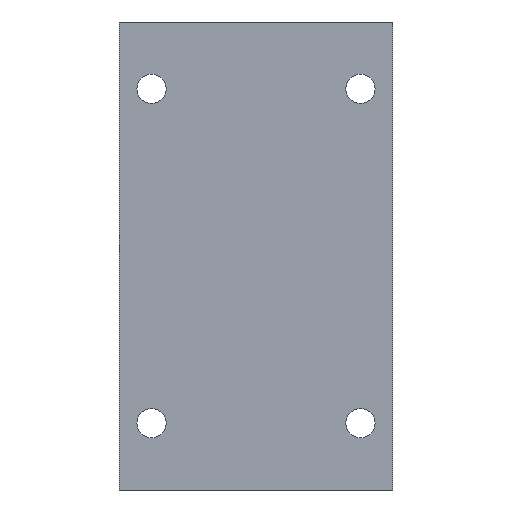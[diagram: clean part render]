
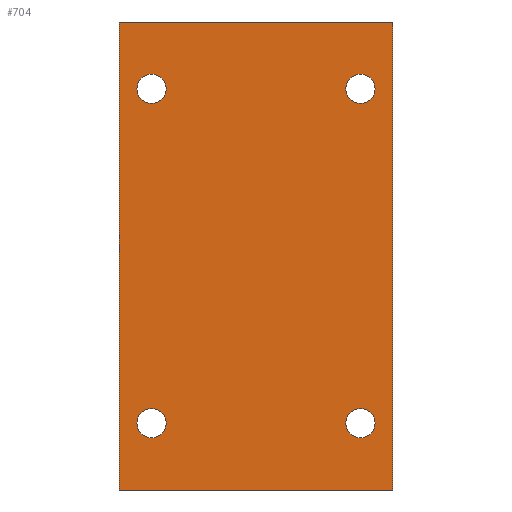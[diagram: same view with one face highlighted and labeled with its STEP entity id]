
A CAD part, front view. The second image highlights one B-rep face of the part: STEP entity #704.
In plain terms, the highlighted planar face has unit normal (0, -1, 0).
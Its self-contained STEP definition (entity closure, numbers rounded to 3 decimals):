
#11 = VECTOR ( 'NONE', #2075, 1000. ) ;
#30 = EDGE_LOOP ( 'NONE', ( #251, #2194 ) ) ;
#34 = ORIENTED_EDGE ( 'NONE', *, *, #2147, .F. ) ;
#42 = AXIS2_PLACEMENT_3D ( 'NONE', #1775, #2321, #1790 ) ;
#46 = ORIENTED_EDGE ( 'NONE', *, *, #681, .F. ) ;
#61 = EDGE_CURVE ( 'NONE', #1072, #1907, #396, .T. ) ;
#72 = DIRECTION ( 'NONE',  ( 0., 0., -1. ) ) ;
#75 = CARTESIAN_POINT ( 'NONE',  ( -50., -44., -80. ) ) ;
#102 = DIRECTION ( 'NONE',  ( 0., -1., 0. ) ) ;
#106 = EDGE_CURVE ( 'NONE', #1896, #1219, #1667, .T. ) ;
#107 = FACE_BOUND ( 'NONE', #350, .T. ) ;
#133 = ORIENTED_EDGE ( 'NONE', *, *, #950, .F. ) ;
#204 = AXIS2_PLACEMENT_3D ( 'NONE', #1106, #102, #632 ) ;
#207 = DIRECTION ( 'NONE',  ( 0., 0., -1. ) ) ;
#208 = EDGE_CURVE ( 'NONE', #1907, #955, #668, .T. ) ;
#210 = CARTESIAN_POINT ( 'NONE',  ( -50., -44., -87. ) ) ;
#236 = AXIS2_PLACEMENT_3D ( 'NONE', #1868, #2206, #1703 ) ;
#251 = ORIENTED_EDGE ( 'NONE', *, *, #1761, .F. ) ;
#290 = FACE_BOUND ( 'NONE', #940, .T. ) ;
#295 = VERTEX_POINT ( 'NONE', #917 ) ;
#298 = DIRECTION ( 'NONE',  ( 0., 0., -1. ) ) ;
#319 = LINE ( 'NONE', #650, #941 ) ;
#331 = AXIS2_PLACEMENT_3D ( 'NONE', #1034, #2162, #207 ) ;
#350 = EDGE_LOOP ( 'NONE', ( #814, #2320 ) ) ;
#396 = LINE ( 'NONE', #1085, #1057 ) ;
#435 = VECTOR ( 'NONE', #902, 1000. ) ;
#496 = CARTESIAN_POINT ( 'NONE',  ( -50., -44., -73. ) ) ;
#505 = CARTESIAN_POINT ( 'NONE',  ( -65.5, -44., -112. ) ) ;
#555 = AXIS2_PLACEMENT_3D ( 'NONE', #1341, #2058, #1755 ) ;
#599 = CARTESIAN_POINT ( 'NONE',  ( -65.5, -44., 112. ) ) ;
#604 = EDGE_CURVE ( 'NONE', #1219, #1896, #2094, .T. ) ;
#611 = ORIENTED_EDGE ( 'NONE', *, *, #61, .T. ) ;
#632 = DIRECTION ( 'NONE',  ( 0., 0., -1. ) ) ;
#650 = CARTESIAN_POINT ( 'NONE',  ( 65.5, -44., 112. ) ) ;
#668 = LINE ( 'NONE', #505, #11 ) ;
#681 = EDGE_CURVE ( 'NONE', #1713, #295, #2017, .T. ) ;
#704 = ADVANCED_FACE ( 'NONE', ( #2261, #290, #107, #1714, #1727 ), #989, .F. ) ;
#814 = ORIENTED_EDGE ( 'NONE', *, *, #604, .F. ) ;
#817 = CARTESIAN_POINT ( 'NONE',  ( 50., -44., 87. ) ) ;
#836 = CARTESIAN_POINT ( 'NONE',  ( 65.5, -44., 112. ) ) ;
#838 = AXIS2_PLACEMENT_3D ( 'NONE', #1820, #1101, #72 ) ;
#867 = CARTESIAN_POINT ( 'NONE',  ( 50., -44., -87. ) ) ;
#875 = AXIS2_PLACEMENT_3D ( 'NONE', #1324, #1492, #963 ) ;
#878 = DIRECTION ( 'NONE',  ( 0., 0., -1. ) ) ;
#902 = DIRECTION ( 'NONE',  ( 1., 0., 0. ) ) ;
#917 = CARTESIAN_POINT ( 'NONE',  ( -50., -44., 87. ) ) ;
#938 = CIRCLE ( 'NONE', #2252, 7. ) ;
#940 = EDGE_LOOP ( 'NONE', ( #34, #1003 ) ) ;
#941 = VECTOR ( 'NONE', #1554, 1000. ) ;
#950 = EDGE_CURVE ( 'NONE', #1072, #1485, #2000, .T. ) ;
#955 = VERTEX_POINT ( 'NONE', #1261 ) ;
#963 = DIRECTION ( 'NONE',  ( 0., 0., -1. ) ) ;
#977 = CIRCLE ( 'NONE', #838, 7. ) ;
#986 = DIRECTION ( 'NONE',  ( 0., -1., 0. ) ) ;
#989 = PLANE ( 'NONE',  #236 ) ;
#1003 = ORIENTED_EDGE ( 'NONE', *, *, #2312, .F. ) ;
#1019 = CIRCLE ( 'NONE', #331, 7. ) ;
#1034 = CARTESIAN_POINT ( 'NONE',  ( 50., -44., -80. ) ) ;
#1046 = CARTESIAN_POINT ( 'NONE',  ( -50., -44., 80. ) ) ;
#1057 = VECTOR ( 'NONE', #1453, 1000. ) ;
#1072 = VERTEX_POINT ( 'NONE', #599 ) ;
#1085 = CARTESIAN_POINT ( 'NONE',  ( -65.5, -44., 112. ) ) ;
#1101 = DIRECTION ( 'NONE',  ( 0., -1., 0. ) ) ;
#1106 = CARTESIAN_POINT ( 'NONE',  ( 50., -44., 80. ) ) ;
#1182 = EDGE_CURVE ( 'NONE', #295, #1713, #938, .T. ) ;
#1217 = CARTESIAN_POINT ( 'NONE',  ( -65.5, -44., -112. ) ) ;
#1219 = VERTEX_POINT ( 'NONE', #210 ) ;
#1257 = CARTESIAN_POINT ( 'NONE',  ( 50., -44., -73. ) ) ;
#1261 = CARTESIAN_POINT ( 'NONE',  ( 65.5, -44., -112. ) ) ;
#1277 = EDGE_CURVE ( 'NONE', #2111, #1392, #977, .T. ) ;
#1296 = CARTESIAN_POINT ( 'NONE',  ( -65.5, -44., 112. ) ) ;
#1300 = EDGE_LOOP ( 'NONE', ( #46, #1531 ) ) ;
#1324 = CARTESIAN_POINT ( 'NONE',  ( -50., -44., 80. ) ) ;
#1341 = CARTESIAN_POINT ( 'NONE',  ( 50., -44., -80. ) ) ;
#1392 = VERTEX_POINT ( 'NONE', #1512 ) ;
#1399 = CIRCLE ( 'NONE', #555, 7. ) ;
#1453 = DIRECTION ( 'NONE',  ( 0., 0., -1. ) ) ;
#1485 = VERTEX_POINT ( 'NONE', #836 ) ;
#1492 = DIRECTION ( 'NONE',  ( 0., -1., 0. ) ) ;
#1504 = EDGE_CURVE ( 'NONE', #1485, #955, #319, .T. ) ;
#1512 = CARTESIAN_POINT ( 'NONE',  ( 50., -44., 73. ) ) ;
#1531 = ORIENTED_EDGE ( 'NONE', *, *, #1182, .F. ) ;
#1554 = DIRECTION ( 'NONE',  ( 0., 0., -1. ) ) ;
#1667 = CIRCLE ( 'NONE', #1817, 7. ) ;
#1694 = CARTESIAN_POINT ( 'NONE',  ( -50., -44., 73. ) ) ;
#1703 = DIRECTION ( 'NONE',  ( 0., 0., 1. ) ) ;
#1713 = VERTEX_POINT ( 'NONE', #1694 ) ;
#1714 = FACE_OUTER_BOUND ( 'NONE', #1736, .T. ) ;
#1727 = FACE_BOUND ( 'NONE', #30, .T. ) ;
#1736 = EDGE_LOOP ( 'NONE', ( #1865, #2117, #133, #611 ) ) ;
#1755 = DIRECTION ( 'NONE',  ( 0., 0., -1. ) ) ;
#1761 = EDGE_CURVE ( 'NONE', #1392, #2111, #2104, .T. ) ;
#1775 = CARTESIAN_POINT ( 'NONE',  ( -50., -44., -80. ) ) ;
#1790 = DIRECTION ( 'NONE',  ( 0., 0., -1. ) ) ;
#1817 = AXIS2_PLACEMENT_3D ( 'NONE', #75, #986, #298 ) ;
#1820 = CARTESIAN_POINT ( 'NONE',  ( 50., -44., 80. ) ) ;
#1848 = VERTEX_POINT ( 'NONE', #867 ) ;
#1865 = ORIENTED_EDGE ( 'NONE', *, *, #208, .T. ) ;
#1868 = CARTESIAN_POINT ( 'NONE',  ( -65.5, -44., 112. ) ) ;
#1896 = VERTEX_POINT ( 'NONE', #496 ) ;
#1907 = VERTEX_POINT ( 'NONE', #1217 ) ;
#2000 = LINE ( 'NONE', #1296, #435 ) ;
#2017 = CIRCLE ( 'NONE', #875, 7. ) ;
#2058 = DIRECTION ( 'NONE',  ( 0., -1., 0. ) ) ;
#2075 = DIRECTION ( 'NONE',  ( 1., 0., 0. ) ) ;
#2094 = CIRCLE ( 'NONE', #42, 7. ) ;
#2104 = CIRCLE ( 'NONE', #204, 7. ) ;
#2111 = VERTEX_POINT ( 'NONE', #817 ) ;
#2117 = ORIENTED_EDGE ( 'NONE', *, *, #1504, .F. ) ;
#2147 = EDGE_CURVE ( 'NONE', #1848, #2257, #1399, .T. ) ;
#2162 = DIRECTION ( 'NONE',  ( 0., -1., 0. ) ) ;
#2194 = ORIENTED_EDGE ( 'NONE', *, *, #1277, .F. ) ;
#2206 = DIRECTION ( 'NONE',  ( 0., 1., 0. ) ) ;
#2252 = AXIS2_PLACEMENT_3D ( 'NONE', #1046, #2314, #878 ) ;
#2257 = VERTEX_POINT ( 'NONE', #1257 ) ;
#2261 = FACE_BOUND ( 'NONE', #1300, .T. ) ;
#2312 = EDGE_CURVE ( 'NONE', #2257, #1848, #1019, .T. ) ;
#2314 = DIRECTION ( 'NONE',  ( 0., -1., 0. ) ) ;
#2320 = ORIENTED_EDGE ( 'NONE', *, *, #106, .F. ) ;
#2321 = DIRECTION ( 'NONE',  ( 0., -1., 0. ) ) ;
